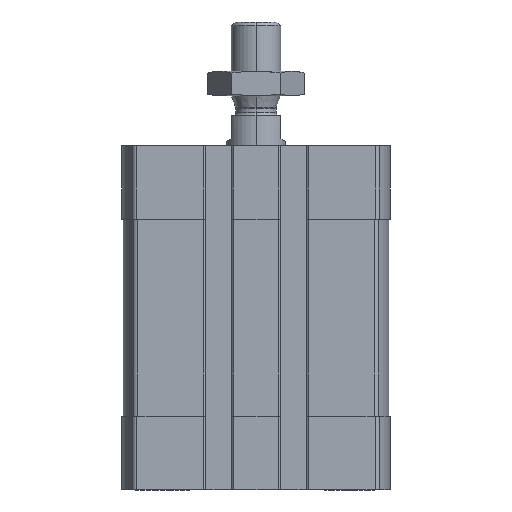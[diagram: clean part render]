
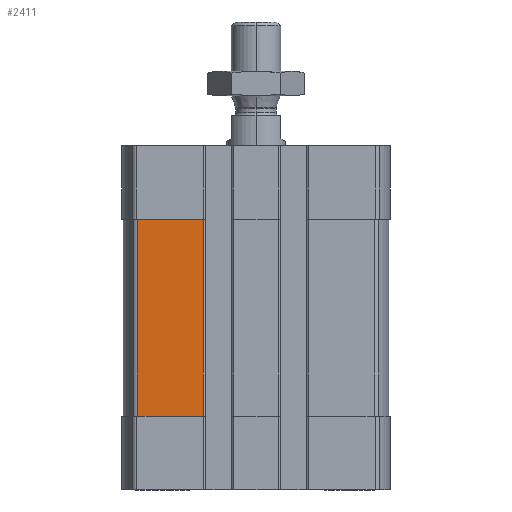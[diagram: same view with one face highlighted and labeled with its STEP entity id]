
A CAD part, left-side view. The second image highlights one B-rep face of the part: STEP entity #2411.
In plain terms, the highlighted planar face has unit normal (-1, 0, 0).
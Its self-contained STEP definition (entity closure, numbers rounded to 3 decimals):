
#1000 = LINE ( 'NONE', #15263, #10601 ) ;
#2383 = LINE ( 'NONE', #3541, #15319 ) ;
#2411 = ADVANCED_FACE ( 'NONE', ( #5719 ), #14463, .T. ) ;
#2642 = CARTESIAN_POINT ( 'NONE',  ( -27., 0., -15. ) ) ;
#2917 = ORIENTED_EDGE ( 'NONE', *, *, #10429, .T. ) ;
#3227 = VERTEX_POINT ( 'NONE', #7063 ) ;
#3265 = DIRECTION ( 'NONE',  ( -1., 0., 0. ) ) ;
#3541 = CARTESIAN_POINT ( 'NONE',  ( -27., 24.093, -55. ) ) ;
#4554 = VERTEX_POINT ( 'NONE', #7245 ) ;
#5022 = ORIENTED_EDGE ( 'NONE', *, *, #14966, .T. ) ;
#5719 = FACE_OUTER_BOUND ( 'NONE', #10408, .T. ) ;
#5971 = ORIENTED_EDGE ( 'NONE', *, *, #10735, .T. ) ;
#6579 = LINE ( 'NONE', #2642, #9137 ) ;
#7063 = CARTESIAN_POINT ( 'NONE',  ( -27., 24.093, -55. ) ) ;
#7168 = VERTEX_POINT ( 'NONE', #15558 ) ;
#7245 = CARTESIAN_POINT ( 'NONE',  ( -27., 24.093, -15. ) ) ;
#7259 = LINE ( 'NONE', #9794, #13559 ) ;
#7336 = DIRECTION ( 'NONE',  ( 0., 0., -1. ) ) ;
#8139 = EDGE_CURVE ( 'NONE', #7168, #4554, #6579, .T. ) ;
#9137 = VECTOR ( 'NONE', #15140, 1000. ) ;
#9794 = CARTESIAN_POINT ( 'NONE',  ( -27., 24.093, -55. ) ) ;
#10254 = ORIENTED_EDGE ( 'NONE', *, *, #8139, .T. ) ;
#10408 = EDGE_LOOP ( 'NONE', ( #5022, #5971, #10254, #2917 ) ) ;
#10429 = EDGE_CURVE ( 'NONE', #4554, #3227, #2383, .T. ) ;
#10601 = VECTOR ( 'NONE', #14036, 1000. ) ;
#10735 = EDGE_CURVE ( 'NONE', #13514, #7168, #1000, .T. ) ;
#10770 = CARTESIAN_POINT ( 'NONE',  ( -27., 24.093, -55. ) ) ;
#11065 = DIRECTION ( 'NONE',  ( 0., -1., 0. ) ) ;
#12055 = DIRECTION ( 'NONE',  ( 0., 0., 1. ) ) ;
#12148 = AXIS2_PLACEMENT_3D ( 'NONE', #10770, #3265, #12055 ) ;
#13197 = CARTESIAN_POINT ( 'NONE',  ( -27., 10.7, -55. ) ) ;
#13514 = VERTEX_POINT ( 'NONE', #13197 ) ;
#13559 = VECTOR ( 'NONE', #11065, 1000. ) ;
#14036 = DIRECTION ( 'NONE',  ( 0., 0., 1. ) ) ;
#14463 = PLANE ( 'NONE',  #12148 ) ;
#14966 = EDGE_CURVE ( 'NONE', #3227, #13514, #7259, .T. ) ;
#15140 = DIRECTION ( 'NONE',  ( 0., 1., 0. ) ) ;
#15263 = CARTESIAN_POINT ( 'NONE',  ( -27., 10.7, -55. ) ) ;
#15319 = VECTOR ( 'NONE', #7336, 1000. ) ;
#15558 = CARTESIAN_POINT ( 'NONE',  ( -27., 10.7, -15. ) ) ;
